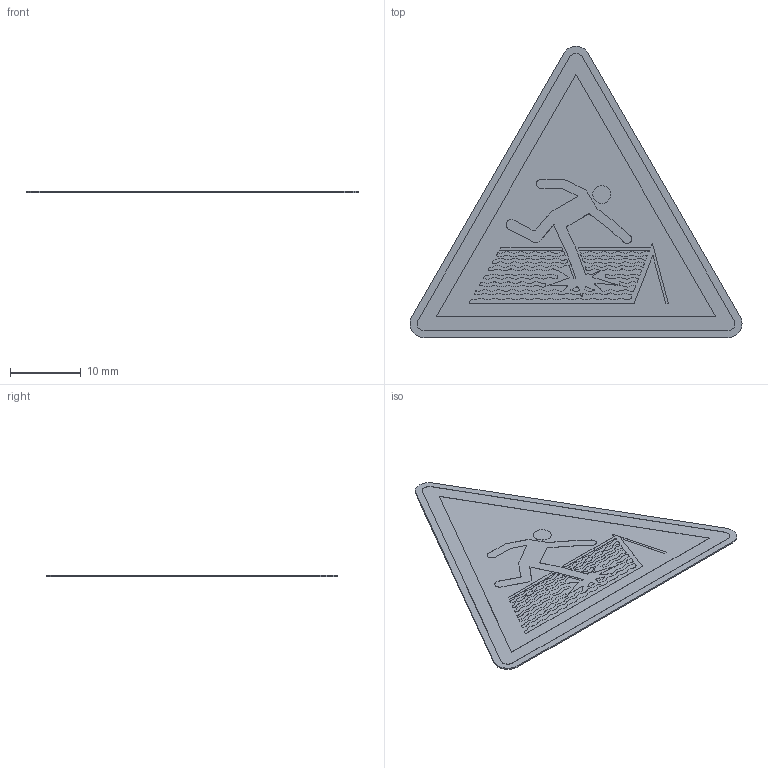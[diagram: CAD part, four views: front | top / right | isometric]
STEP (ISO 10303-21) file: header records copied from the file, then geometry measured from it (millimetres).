
FILE_DESCRIPTION (( 'STEP AP214' ), '1' );
FILE_NAME ('W036_Warnung vor nicht durchtrittsicherem Dach.STEP', '2022-03-03T14:10:26', ( '' ), ( '' ), 'SwSTEP 2.0', 'SolidWorks 2021', '' );
FILE_SCHEMA (( 'AUTOMOTIVE_DESIGN' ));
Length unit declared in the file: millimetre
Products named in the file (1): W036_Warnung vor nicht durchtrittsicherem Dach
Bounding box: 47.07 x 41.3 x 0.22 mm (x, y, z)
Volume: 221.6 mm3; surface area: 2186.6 mm2
Topology: 1 solids, 1 shells, 754 faces, 2220 edges, 1480 vertices
Faces by surface type: plane 542, cylinder 212
Entity records: 33184 total; most frequent: CARTESIAN_POINT 4455, ORIENTED_EDGE 4440, DIRECTION 4154, EDGE_CURVE 2220, LINE 1796, VECTOR 1796, VERTEX_POINT 1480, AXIS2_PLACEMENT_3D 1179
